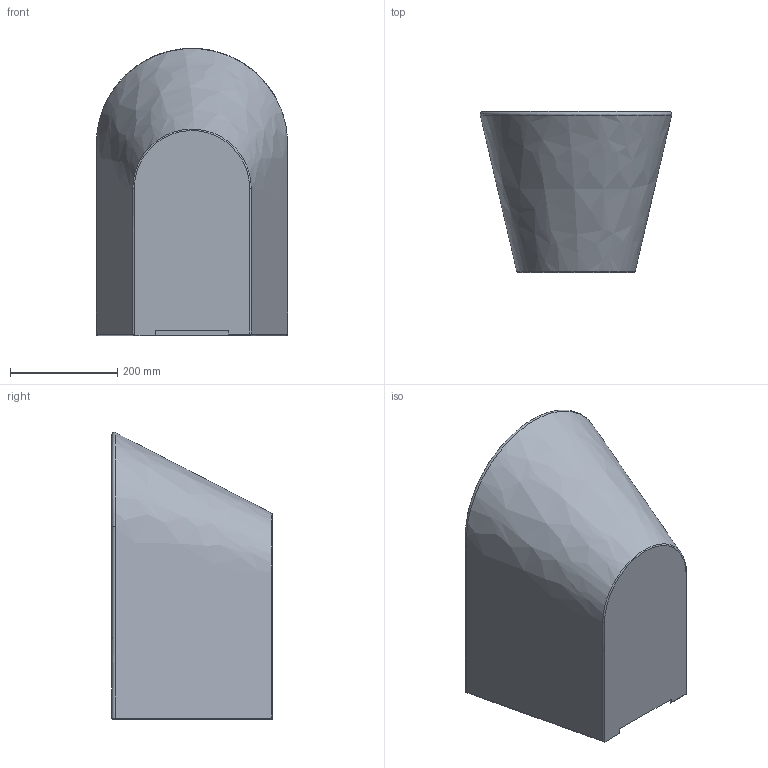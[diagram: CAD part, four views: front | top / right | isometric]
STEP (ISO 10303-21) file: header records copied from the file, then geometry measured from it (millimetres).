
FILE_DESCRIPTION (( 'STEP AP203' ), '1' );
FILE_NAME ('FORMA BIDET SOSP.STEP', '2018-09-07T12:34:51', ( '' ), ( '' ), 'SwSTEP 2.0', 'SolidWorks 2018', '' );
FILE_SCHEMA (( 'CONFIG_CONTROL_DESIGN' ));
Length unit declared in the file: millimetre
Products named in the file (1): FORMA BIDET SOSP
Bounding box: 357.38 x 300 x 536.66 mm (x, y, z)
Volume: 27859753.2 mm3; surface area: 788459.1 mm2
Topology: 1 solids, 1 shells, 45 faces, 111 edges, 71 vertices
Faces by surface type: plane 14, bspline 13, cylinder 12, torus 3, cone 2, sphere 1
Full cylindrical faces by diameter (mm): 20 x1, 35 x1, 46 x1
Entity records: 4740 total; most frequent: CARTESIAN_POINT 3726, ORIENTED_EDGE 206, DIRECTION 168, EDGE_CURVE 103, AXIS2_PLACEMENT_3D 70, VERTEX_POINT 69, EDGE_LOOP 54, FACE_OUTER_BOUND 49
